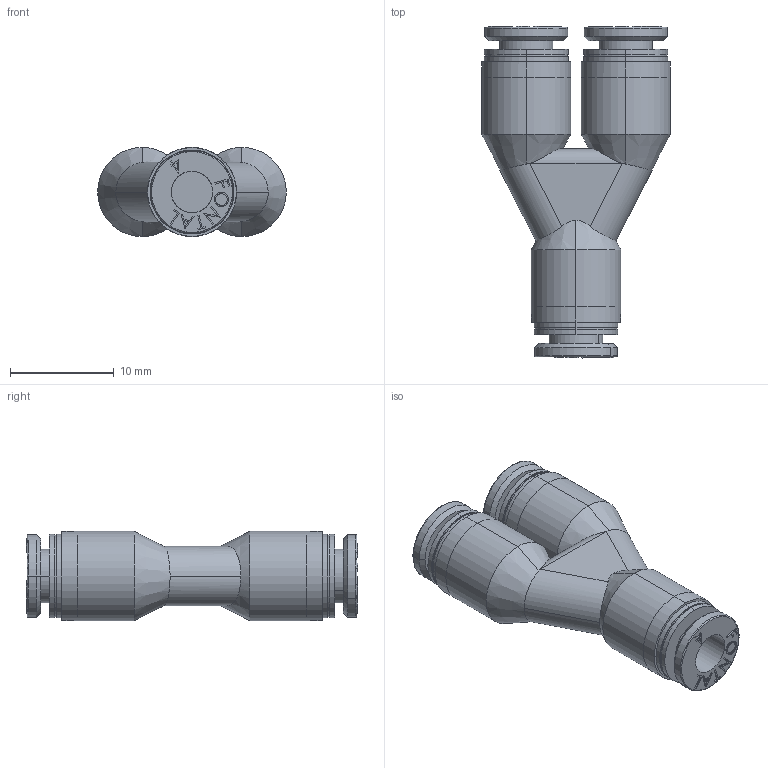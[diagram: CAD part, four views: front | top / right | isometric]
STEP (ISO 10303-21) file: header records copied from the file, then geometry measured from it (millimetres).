
FILE_DESCRIPTION (( 'STEP AP203' ), '1' );
FILE_NAME ('FPY4.STEP', '2016-01-14T21:10:18', ( '' ), ( '' ), 'SwSTEP 2.0', 'SolidWorks 2014', '' );
FILE_SCHEMA (( 'CONFIG_CONTROL_DESIGN' ));
Length unit declared in the file: millimetre
Products named in the file (3): FPY4-A; FPC4-01-A; FPY4
Assembly tree (4 placements, depth 2):
  FPY4
    FPY4-A
    FPC4-01-A  x3
Bounding box: 18.2 x 32 x 8.6 mm (x, y, z)
Volume: 1819.3 mm3; surface area: 2312.4 mm2
Topology: 4 solids, 4 shells, 342 faces, 834 edges, 548 vertices
Faces by surface type: plane 234, cylinder 60, bspline 24, cone 18, torus 6
Entity records: 5853 total; most frequent: CARTESIAN_POINT 1721, ORIENTED_EDGE 772, DIRECTION 770, EDGE_CURVE 386, AXIS2_PLACEMENT_3D 261, VERTEX_POINT 252, LINE 248, VECTOR 248
